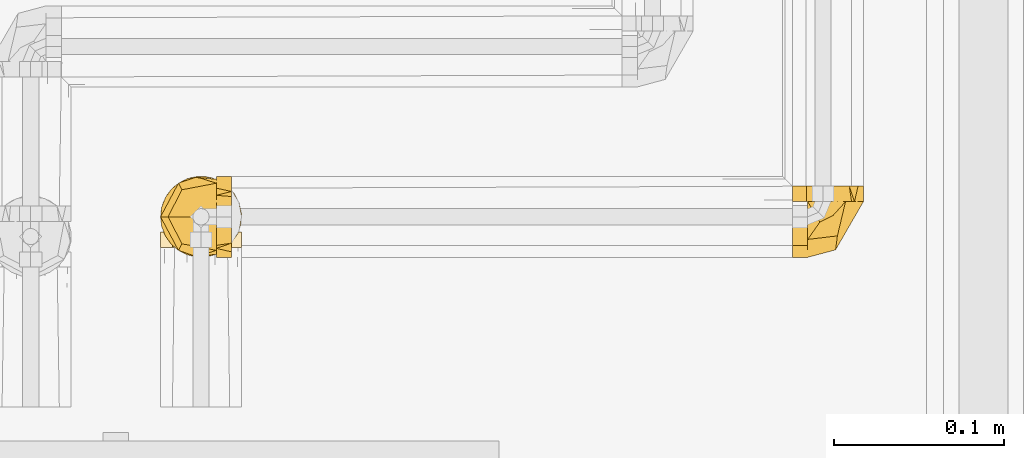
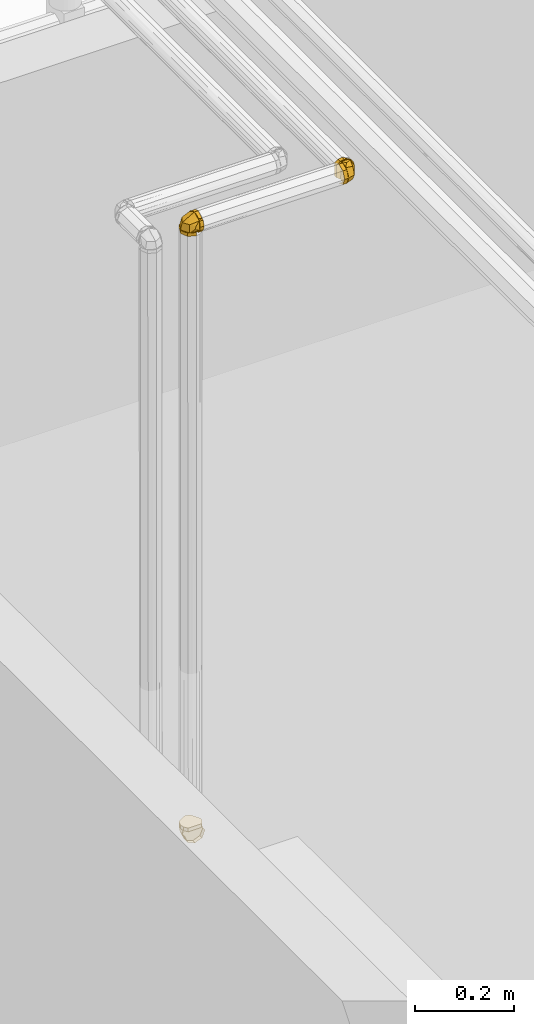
# One storey, part 285 of 652: 3 coverings.
"""IFC2X3 building model written with IfcOpenShell, lengths in millimetres."""

from ifc_helpers import new_model, entity, si_unit, converted_unit, direction, frame, origin, place, context, subcontext, project, spatial, face_set, surface_model, material, type_object, element, save


model = new_model("IFC2X3")

# Units and contexts
model_context = context("Model", 3, precision=0.01, world=frame((0.0, 0.0, 308426.39999999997)), true_north=direction((6.123233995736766e-17, 1.0)))
plan_context = context("Plan", 3, precision=0.01, world=frame((0.0, 0.0, 308426.39999999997)), true_north=direction((6.123233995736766e-17, 1.0)))
body_context = subcontext(model_context, "Body", "Model", "MODEL_VIEW")
ifc_project = project(units=[si_unit("LENGTHUNIT", "METRE", prefix="MILLI"), si_unit("AREAUNIT", "SQUARE_METRE"), si_unit("VOLUMEUNIT", "CUBIC_METRE"), converted_unit("PLANEANGLEUNIT", "DEGREE", entity("IfcPlaneAngleMeasure", 0.017453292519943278), si_unit("PLANEANGLEUNIT", "RADIAN"), dimensions=[0, 0, 0, 0, 0, 0, 0])], contexts=[model_context, plan_context])

# Site, building, storey
site_placement = place(None, origin())
site = spatial("IfcSite", under=ifc_project, at=site_placement, Name="Default", CompositionType="ELEMENT")
building_placement = place(site_placement, origin())
building = spatial("IfcBuilding", under=site, at=building_placement, CompositionType="ELEMENT")
storey_placement = place(building_placement, frame((0.0, 0.0, 1730.6999999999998)))
storey = spatial("IfcBuildingStorey", under=building, at=storey_placement, Name="EG_Produktion_FFB", CompositionType="ELEMENT", Elevation=1730.6999999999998)

# Coverings
ifc_material = material(Name="Dämmung - Armaflex-Schlauch")
covering_type = type_object("IfcCoveringType", Name="Rohrdämmung außen:Armaflex-Schlauch", PredefinedType="INSULATION")
covering_1_placement = place(storey_placement, frame((14699.64222776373, 39012.200911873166, 2674.642227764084)))
element("IfcCovering", 1, at=covering_1_placement, inside=storey, type_object=covering_type, material=ifc_material, Name="Rohrdämmung außen:Armaflex-Schlauch", ObjectType="Rohrdämmung außen:Armaflex-Schlauch", PredefinedType="INSULATION", context=body_context, shape_type="SurfaceModel", body=[
    surface_model("IfcFaceBasedSurfaceModel", [(3.3372686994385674, 10.45842089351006, 34.288272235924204), (1.8303409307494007, 10.45842089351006, 28.691896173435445), (1.7230119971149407, 10.45842089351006, 22.89717988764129), (3.0216666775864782, 10.458420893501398, 17.248839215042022), (5.649050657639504, 10.458420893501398, 12.082882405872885), (9.448866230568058, 10.458420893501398, 7.706621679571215), (14.195070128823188, 10.458420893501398, 4.38039184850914), (19.605320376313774, 10.458420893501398, 2.3020635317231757), (25.357772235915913, 10.458420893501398, 1.595272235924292), (31.110224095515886, 10.458420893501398, 2.3020635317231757), (36.52047434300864, 10.458420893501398, 4.38039184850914), (41.26667824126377, 10.458420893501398, 7.706621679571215), (45.06649381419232, 10.458420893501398, 12.082882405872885), (47.693877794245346, 10.458420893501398, 17.248839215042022), (48.99253247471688, 10.45842089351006, 22.89717988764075), (48.885203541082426, 10.45842089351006, 28.691896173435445), (47.37827577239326, 10.45842089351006, 34.288272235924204), (48.885203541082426, 16.054796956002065, 34.28827223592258), (48.99253247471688, 21.849513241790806, 34.28827223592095), (47.693877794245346, 27.497853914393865, 34.28827223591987), (45.06649381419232, 32.66381072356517, 34.28827223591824), (41.26667824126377, 37.040071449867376, 34.28827223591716), (36.52047434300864, 40.36630128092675, 34.28827223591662), (31.110224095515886, 42.44462959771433, 34.288272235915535), (25.357772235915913, 43.15142089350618, 34.288272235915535), (19.605320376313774, 42.44462959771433, 34.288272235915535), (14.195070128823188, 40.36630128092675, 34.28827223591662), (9.448866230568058, 37.040071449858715, 34.28827223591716), (5.649050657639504, 32.66381072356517, 34.28827223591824), (3.0216666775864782, 27.497853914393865, 34.28827223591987), (1.7230119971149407, 21.849513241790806, 34.28827223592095), (1.8303409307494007, 16.054796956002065, 34.28827223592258), (2.9987115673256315, 25.36511595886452, 26.166056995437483), (9.499477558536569, 27.881241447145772, 14.15167406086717), (4.480016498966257, 21.43047240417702, 34.288235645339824), (15.617708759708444, 10.459049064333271, 6.778286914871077), (25.357811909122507, 26.80688841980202, 5.97542894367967), (15.50376222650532, 37.90853636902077, 34.288235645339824), (25.357811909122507, 35.60635131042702, 21.22013795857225), (2.1394616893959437, 17.537686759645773, 22.222983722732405), (4.4928064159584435, 10.459049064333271, 23.185715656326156), (47.716912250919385, 25.36511595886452, 26.166056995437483), (48.574999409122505, 17.537686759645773, 22.222983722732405), (41.216146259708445, 27.881241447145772, 14.15167406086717), (35.09791505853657, 10.459049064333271, 6.778286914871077), (46.235607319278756, 21.43047240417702, 34.288235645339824), (35.09791505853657, 37.96899779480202, 34.288235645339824), (25.357811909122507, 34.97848265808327, 20.13183229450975), (46.22281740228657, 10.459049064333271, 23.185715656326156), (1.5953088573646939, 1.4386694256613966, 25.357676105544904), (1.5953088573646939, 10.459049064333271, 25.357676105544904), (8.555349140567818, 10.459049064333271, 8.555213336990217), (8.555349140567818, 1.4386694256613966, 8.555213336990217), (25.357811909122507, 10.459049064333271, 1.5951730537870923), (25.357811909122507, 1.4386694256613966, 1.5951730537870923), (42.160274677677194, 10.459049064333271, 8.555213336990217), (42.160274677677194, 1.4386694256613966, 8.555213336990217), (49.12031496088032, 10.459049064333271, 25.357676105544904), (49.12031496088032, 1.4386694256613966, 25.357676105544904), (46.14995973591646, 24.533653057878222, 43.30802223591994), (43.179647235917, 29.678385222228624, 43.308022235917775), (40.20933473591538, 34.823117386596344, 43.30802223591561), (37.23902223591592, 39.967849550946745, 43.30802223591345), (31.298397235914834, 41.55963522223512, 43.30802223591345), (25.357772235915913, 43.151420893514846, 43.30802223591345), (20.213040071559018, 40.18110839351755, 43.3080222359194), (15.06830790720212, 37.210795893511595, 43.308022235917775), (9.923575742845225, 34.240483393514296, 43.30802223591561), (4.778843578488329, 31.270170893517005, 43.30802223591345), (3.1870579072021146, 25.329545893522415, 43.30802223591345), (1.5952722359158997, 19.388920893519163, 43.30802223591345), (2.6431209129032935, 14.510241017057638, 43.308022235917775), (3.690969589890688, 9.63156114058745, 43.30802223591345), (6.649688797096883, 5.613416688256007, 43.30802223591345), (9.608408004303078, 1.5952722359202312, 43.30802223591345), (41.10713646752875, 1.5952722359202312, 43.30802223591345), (44.06585567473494, 5.613416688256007, 43.308022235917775), (47.024574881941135, 9.63156114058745, 43.30802223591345), (48.07242355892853, 14.510241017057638, 43.30802223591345), (49.12027223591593, 19.388920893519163, 43.30802223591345), (47.024574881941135, 9.63156114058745, 34.2882722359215), (43.985875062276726, 5.5047975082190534, 34.2882722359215), (41.10713646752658, 1.5952722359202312, 34.2882722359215), (9.608408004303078, 1.5952722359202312, 34.2882722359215), (6.649688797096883, 5.613416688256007, 34.2882722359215), (3.690969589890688, 9.63156114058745, 34.2882722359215), (2.614795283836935, 14.642122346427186, 34.2882722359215), (1.5952722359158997, 19.388920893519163, 34.2882722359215), (3.3352410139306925, 23.589577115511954, 34.2882722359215), (5.07520979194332, 27.79023333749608, 34.2882722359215), (6.815178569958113, 31.99088955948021, 34.2882722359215), (8.55514734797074, 36.191545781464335, 34.2882722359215), (12.755803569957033, 37.9315145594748, 34.2882722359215), (16.956459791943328, 39.671483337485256, 34.2882722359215), (21.15711601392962, 41.41145211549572, 34.2882722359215), (25.357772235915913, 43.151420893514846, 34.2882722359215), (29.558428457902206, 41.41145211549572, 34.2882722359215), (33.759084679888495, 39.671483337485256, 34.2882722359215), (37.95974090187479, 37.9315145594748, 34.2882722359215), (42.16039712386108, 36.191545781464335, 34.2882722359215), (43.90036590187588, 31.99088955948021, 34.2882722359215), (45.640334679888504, 27.79023333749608, 34.2882722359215), (47.380303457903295, 23.589577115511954, 34.2882722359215), (49.12027223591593, 19.388920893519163, 34.2882722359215), (48.07242355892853, 14.510241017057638, 34.2882722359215)], [face_set([[[0, 1, 2, 3, 4, 5, 6, 7, 8, 9, 10, 11, 12, 13, 14, 15]], [[16, 17, 18, 19, 20, 21, 22, 23, 24, 25, 26, 27, 28, 29, 30, 31]], [[32, 28, 33]], [[32, 34, 28]], [[33, 35, 4]], [[35, 33, 36]], [[36, 8, 35]], [[33, 37, 38]], [[39, 4, 40]], [[32, 33, 39]], [[34, 32, 0]], [[4, 39, 33]], [[38, 36, 33]], [[0, 32, 39]], [[33, 28, 37]], [[37, 24, 38]], [[0, 39, 40]], [[41, 16, 42]], [[43, 44, 36]], [[20, 45, 41]], [[46, 43, 47]], [[44, 8, 36]], [[12, 43, 42]], [[44, 43, 12]], [[42, 16, 48]], [[20, 43, 46]], [[16, 41, 45]], [[43, 41, 42]], [[43, 36, 47]], [[47, 24, 46]], [[20, 41, 43]], [[48, 12, 42]]]), face_set([[[49, 50, 51, 52]], [[53, 54, 52, 51]], [[54, 53, 55, 56]], [[57, 58, 56, 55]]]), face_set([[[59, 60, 61, 62, 63, 64, 65, 66, 67, 68, 69, 70, 71, 72, 73, 74, 75, 76, 77, 78, 79]], [[80, 81, 82, 83, 84, 85, 86, 87, 88, 89, 90, 91, 92, 93, 94, 95, 96, 97, 98, 99, 100, 101, 102, 103, 104]], [[75, 74, 83, 82]], [[71, 70, 87, 86, 85, 72]], [[73, 72, 85, 84, 83, 74]], [[90, 67, 91]], [[64, 94, 65]], [[94, 93, 65]], [[69, 89, 88]], [[88, 87, 70]], [[67, 90, 68]], [[66, 93, 92]], [[64, 95, 94]], [[93, 66, 65]], [[70, 69, 88]], [[92, 91, 67]], [[90, 89, 68]], [[69, 68, 89]], [[66, 92, 67]], [[98, 61, 99]], [[79, 102, 59]], [[102, 101, 59]], [[63, 97, 96]], [[96, 95, 64]], [[61, 98, 62]], [[60, 101, 100]], [[79, 103, 102]], [[101, 60, 59]], [[64, 63, 96]], [[100, 99, 61]], [[98, 97, 62]], [[63, 62, 97]], [[60, 100, 61]], [[76, 75, 82, 81, 80, 77]], [[78, 77, 80, 104, 103, 79]]])]),
])
covering_2_placement = place(storey_placement, frame((15070.611079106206, 39006.23206053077, 4174.642227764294)))
element("IfcCovering", 2, at=covering_2_placement, inside=storey, type_object=covering_type, material=ifc_material, Name="Rohrdämmung außen:Armaflex-Schlauch", ObjectType="Rohrdämmung außen:Armaflex-Schlauch", PredefinedType="INSULATION", context=body_context, shape_type="SurfaceModel", body=[
    surface_model("IfcFaceBasedSurfaceModel", [(10.458420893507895, 34.28827223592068, 3.337268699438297), (10.45842089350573, 28.691896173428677, 1.83034093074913), (10.45842089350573, 22.897179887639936, 1.723011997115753), (10.458420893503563, 17.248839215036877, 3.0216666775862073), (10.458420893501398, 12.082882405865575, 5.649050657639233), (10.458420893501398, 7.706621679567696, 9.44886623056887), (10.458420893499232, 4.380391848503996, 14.195070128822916), (10.458420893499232, 2.3020635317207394, 19.605320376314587), (10.458420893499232, 1.5952722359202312, 25.35777223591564), (10.458420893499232, 2.3020635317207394, 31.110224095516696), (10.458420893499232, 4.380391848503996, 36.52047434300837), (10.458420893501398, 7.706621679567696, 41.26667824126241), (10.458420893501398, 12.082882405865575, 45.06649381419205), (10.458420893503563, 17.248839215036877, 47.693877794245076), (10.45842089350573, 22.897179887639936, 48.99253247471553), (10.45842089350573, 28.691896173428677, 48.885203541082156), (10.458420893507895, 34.28827223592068, 47.37827577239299), (16.054796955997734, 34.28827223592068, 1.83034093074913), (21.849513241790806, 34.28827223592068, 1.723011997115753), (27.497853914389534, 34.28827223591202, 3.0216666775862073), (32.66381072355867, 34.28827223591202, 5.649050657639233), (37.04007144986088, 34.28827223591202, 9.44886623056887), (40.366301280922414, 34.28827223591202, 14.195070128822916), (42.444629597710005, 34.28827223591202, 19.605320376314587), (43.151420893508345, 34.28827223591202, 25.35777223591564), (42.444629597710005, 34.28827223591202, 31.110224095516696), (40.366301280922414, 34.28827223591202, 36.52047434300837), (37.04007144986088, 34.28827223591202, 41.26667824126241), (32.66381072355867, 34.28827223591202, 45.06649381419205), (27.497853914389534, 34.28827223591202, 47.693877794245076), (21.849513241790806, 34.28827223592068, 48.99253247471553), (16.054796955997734, 34.28827223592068, 48.885203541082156), (25.365153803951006, 26.16684083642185, 2.9988778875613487), (27.880116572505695, 14.153620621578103, 9.499062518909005), (21.431672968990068, 34.28727540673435, 4.479601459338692), (10.457924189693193, 6.777326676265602, 15.617875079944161), (26.804600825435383, 5.975050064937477, 25.357978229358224), (37.907411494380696, 34.28727540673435, 15.503347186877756), (35.606389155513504, 21.218305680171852, 25.357978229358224), (17.53888732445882, 22.222895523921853, 2.1402093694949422), (10.457924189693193, 23.185627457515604, 4.492972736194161), (25.365153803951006, 26.16684083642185, 47.7170785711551), (17.53888732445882, 22.222895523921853, 48.57574708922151), (27.880116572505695, 14.153620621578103, 41.216312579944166), (10.457924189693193, 6.777326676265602, 35.097500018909), (21.431672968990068, 34.28727540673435, 46.23577363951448), (37.96903563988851, 34.28727540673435, 35.097500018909), (34.978520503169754, 20.130000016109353, 25.357978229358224), (10.457924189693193, 23.185627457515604, 46.222402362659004), (1.4387072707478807, 25.357587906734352, 1.595475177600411), (10.457924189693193, 25.357587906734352, 1.595475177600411), (10.457924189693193, 8.553962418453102, 8.554934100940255), (1.4387072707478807, 8.553962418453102, 8.554934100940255), (10.457924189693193, 1.5962475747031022, 25.357978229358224), (1.4387072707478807, 1.5962475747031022, 25.357978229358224), (10.457924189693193, 8.553962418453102, 42.160440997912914), (1.4387072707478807, 8.553962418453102, 42.160440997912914), (10.457924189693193, 25.357587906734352, 49.120481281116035), (1.4387072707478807, 25.357587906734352, 49.120481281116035), (24.533653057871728, 43.30802223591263, 46.14995973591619), (29.678385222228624, 43.30802223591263, 43.17964723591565), (34.823117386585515, 43.30802223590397, 40.209334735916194), (39.96784955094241, 43.30802223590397, 37.23902223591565), (41.55963522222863, 43.30802223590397, 31.298397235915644), (43.151420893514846, 43.30802223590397, 25.35777223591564), (40.18110839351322, 43.30802223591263, 20.213040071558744), (37.210795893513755, 43.30802223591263, 15.06830790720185), (34.24048339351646, 43.30802223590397, 9.923575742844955), (31.270170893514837, 43.30802223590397, 4.7788435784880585), (25.329545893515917, 43.30802223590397, 3.1870579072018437), (19.388920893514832, 43.30802223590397, 1.595272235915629), (14.510241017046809, 43.30802223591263, 2.64312091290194), (9.631561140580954, 43.30802223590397, 3.690969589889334), (5.61341668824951, 43.30802223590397, 6.649688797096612), (1.5952722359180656, 43.30802223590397, 9.608408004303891), (1.5952722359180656, 43.30802223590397, 41.10713646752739), (5.61341668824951, 43.30802223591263, 44.06585567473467), (9.631561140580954, 43.30802223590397, 47.02457488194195), (14.510241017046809, 43.30802223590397, 48.072423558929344), (19.388920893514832, 43.30802223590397, 49.12027223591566), (9.631561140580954, 34.28827223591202, 47.024574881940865), (5.504797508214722, 34.28827223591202, 43.985875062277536), (1.5952722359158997, 34.28827223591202, 41.10713646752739), (1.5952722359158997, 34.28827223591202, 9.608408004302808), (5.61341668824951, 34.28827223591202, 6.649688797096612), (9.631561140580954, 34.28827223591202, 3.690969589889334), (14.64212234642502, 34.28827223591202, 2.614795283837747), (19.388920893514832, 34.28827223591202, 1.595272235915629), (23.589577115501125, 34.28827223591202, 3.335241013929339), (27.790233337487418, 34.28827223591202, 5.075209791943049), (31.99088955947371, 34.28827223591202, 6.8151785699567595), (36.19154578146, 34.28827223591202, 8.55514734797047), (37.93151455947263, 34.28827223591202, 12.755803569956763), (39.67148333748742, 34.28827223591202, 16.956459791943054), (41.41145211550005, 34.28827223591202, 21.157116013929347), (43.151420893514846, 34.28827223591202, 25.35777223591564), (41.41145211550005, 34.28827223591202, 29.558428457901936), (39.67148333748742, 34.28827223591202, 33.759084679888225), (37.9315145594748, 34.28827223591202, 37.95974090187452), (36.19154578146, 34.28827223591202, 42.16039712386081), (31.99088955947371, 34.28827223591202, 43.90036590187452), (27.790233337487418, 34.28827223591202, 45.640334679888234), (23.589577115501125, 34.28827223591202, 47.380303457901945), (19.388920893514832, 34.28827223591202, 49.12027223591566), (14.510241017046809, 34.28827223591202, 48.072423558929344)], [face_set([[[0, 1, 2, 3, 4, 5, 6, 7, 8, 9, 10, 11, 12, 13, 14, 15]], [[16, 17, 18, 19, 20, 21, 22, 23, 24, 25, 26, 27, 28, 29, 30, 31]], [[32, 20, 33]], [[32, 34, 20]], [[33, 35, 4]], [[35, 33, 36]], [[36, 8, 35]], [[33, 37, 38]], [[39, 4, 40]], [[32, 33, 39]], [[34, 32, 0]], [[4, 39, 33]], [[38, 36, 33]], [[0, 32, 39]], [[33, 20, 37]], [[37, 24, 38]], [[0, 39, 40]], [[41, 16, 42]], [[43, 44, 36]], [[28, 45, 41]], [[46, 43, 47]], [[44, 8, 36]], [[12, 43, 42]], [[44, 43, 12]], [[42, 16, 48, 12]], [[28, 43, 46]], [[16, 41, 45]], [[43, 41, 42]], [[43, 36, 47]], [[47, 24, 46]], [[28, 41, 43]]]), face_set([[[49, 50, 51, 52]], [[53, 54, 52, 51]], [[54, 53, 55, 56]], [[57, 58, 56, 55]]]), face_set([[[59, 60, 61, 62, 63, 64, 65, 66, 67, 68, 69, 70, 71, 72, 73, 74, 75, 76, 77, 78, 79]], [[80, 81, 82, 83, 84, 85, 86, 87, 88, 89, 90, 91, 92, 93, 94, 95, 96, 97, 98, 99, 100, 101, 102, 103, 104]], [[75, 74, 83, 82]], [[71, 70, 87, 86, 85, 72]], [[73, 72, 85, 84, 83, 74]], [[90, 67, 91]], [[64, 94, 65]], [[94, 93, 65]], [[69, 89, 88]], [[88, 87, 70]], [[67, 90, 68]], [[66, 93, 92]], [[64, 95, 94]], [[93, 66, 65]], [[70, 69, 88]], [[92, 91, 67]], [[90, 89, 68]], [[69, 68, 89]], [[66, 92, 67]], [[98, 61, 99]], [[79, 102, 59]], [[102, 101, 59]], [[63, 97, 96]], [[96, 95, 64]], [[61, 98, 62]], [[60, 101, 100]], [[79, 103, 102]], [[101, 60, 59]], [[64, 63, 96]], [[100, 99, 61]], [[98, 97, 62]], [[63, 62, 97]], [[60, 100, 61]], [[76, 75, 82, 81, 80, 77]], [[78, 77, 80, 104, 103, 79]]])]),
])
covering_3_placement = place(storey_placement, frame((14699.642227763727, 39006.23206053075, 4180.61107910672)))
element("IfcCovering", 3, at=covering_3_placement, inside=storey, type_object=covering_type, material=ifc_material, Name="Rohrdämmung außen:Armaflex-Schlauch", ObjectType="Rohrdämmung außen:Armaflex-Schlauch", PredefinedType="INSULATION", context=body_context, shape_type="SurfaceModel", body=[
    surface_model("IfcFaceBasedSurfaceModel", [(34.28827223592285, 3.337268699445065, 10.458420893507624), (28.69189617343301, 1.8303409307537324, 10.458420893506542), (22.897179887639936, 1.723011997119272, 10.458420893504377), (17.24883921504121, 3.021666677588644, 10.458420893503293), (12.082882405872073, 5.649050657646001, 10.45842089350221), (7.706621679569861, 9.44886623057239, 10.458420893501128), (4.380391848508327, 14.195070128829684, 10.458420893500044), (2.3020635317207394, 19.605320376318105, 10.458420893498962), (1.595272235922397, 25.357772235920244, 10.458420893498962), (2.3020635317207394, 31.110224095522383, 10.458420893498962), (4.380391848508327, 36.520474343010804, 10.458420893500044), (7.706621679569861, 41.266678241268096, 10.458420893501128), (12.082882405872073, 45.066493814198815, 10.45842089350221), (17.24883921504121, 47.69387779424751, 10.458420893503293), (22.897179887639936, 48.99253247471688, 10.458420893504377), (28.69189617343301, 48.88520354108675, 10.458420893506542), (34.28827223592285, 47.37827577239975, 10.458420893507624), (34.28827223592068, 1.8303409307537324, 16.05479695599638), (34.28827223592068, 1.723011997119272, 21.849513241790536), (34.28827223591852, 3.021666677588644, 27.49785391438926), (34.28827223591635, 5.649050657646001, 32.6638107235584), (34.28827223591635, 9.44886623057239, 37.04007144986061), (34.288272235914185, 14.195070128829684, 40.366301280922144), (34.288272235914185, 19.605320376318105, 42.44462959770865), (34.288272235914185, 25.357772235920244, 43.151420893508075), (34.288272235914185, 31.110224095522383, 42.44462959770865), (34.288272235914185, 36.520474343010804, 40.366301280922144), (34.28827223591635, 41.266678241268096, 37.04007144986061), (34.28827223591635, 45.066493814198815, 32.66381072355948), (34.28827223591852, 47.69387779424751, 27.497853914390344), (34.28827223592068, 48.99253247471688, 21.849513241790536), (34.28827223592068, 48.88520354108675, 16.05479695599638), (26.16590211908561, 2.9984875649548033, 25.36550628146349), (14.151519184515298, 9.498090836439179, 27.879306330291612), (34.288662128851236, 4.4797924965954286, 21.43202544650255), (6.778713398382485, 15.61864747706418, 10.458276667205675), (5.975274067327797, 25.35758790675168, 26.80495330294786), (34.288662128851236, 15.50237550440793, 37.907763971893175), (21.219692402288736, 25.35758790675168, 35.60674163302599), (22.22311952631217, 2.140400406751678, 17.53865844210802), (23.185851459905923, 4.493745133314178, 10.458276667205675), (26.16590211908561, 47.71901368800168, 25.36550628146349), (22.22311952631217, 48.57477540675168, 17.53865844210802), (14.151519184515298, 41.21708497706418, 27.879306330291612), (6.778713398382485, 35.09652833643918, 10.458276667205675), (34.288662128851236, 46.23538331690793, 21.43202544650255), (34.288662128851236, 35.09652833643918, 37.968806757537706), (20.131386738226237, 25.35758790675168, 34.97829162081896), (23.185851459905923, 46.22143068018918, 10.458276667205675), (25.357811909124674, 1.596247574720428, 1.4384783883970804), (25.357811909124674, 1.596247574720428, 10.458276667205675), (8.555349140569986, 8.553962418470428, 10.458276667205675), (8.555349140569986, 8.553962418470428, 1.4384783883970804), (1.5953088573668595, 25.35758790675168, 10.458276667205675), (1.5953088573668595, 25.35758790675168, 1.4384783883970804), (8.555349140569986, 42.16121339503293, 10.458276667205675), (8.555349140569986, 42.16121339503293, 1.4384783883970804), (25.357811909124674, 49.11892823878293, 10.458276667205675), (25.357811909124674, 49.11892823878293, 1.4384783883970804), (43.30802223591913, 46.14995973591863, 24.533653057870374), (43.308022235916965, 43.179647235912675, 29.67838522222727), (43.3080222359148, 40.20933473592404, 34.823117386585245), (43.30802223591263, 37.239022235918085, 39.96784955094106), (43.30802223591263, 31.298397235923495, 41.55963522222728), (43.30802223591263, 25.357772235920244, 43.15142089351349), (43.30802223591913, 20.21304007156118, 40.18110839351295), (43.308022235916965, 15.068307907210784, 37.210795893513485), (43.3080222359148, 9.923575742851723, 34.240483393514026), (43.30802223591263, 4.778843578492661, 31.270170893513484), (43.30802223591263, 3.1870579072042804, 25.32954589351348), (43.30802223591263, 1.5952722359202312, 19.38892089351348), (43.308022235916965, 2.643120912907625, 14.510241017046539), (43.30802223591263, 3.690969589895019, 9.631561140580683), (43.30802223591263, 6.649688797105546, 5.613416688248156), (43.30802223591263, 9.608408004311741, 1.595272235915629), (43.30802223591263, 41.10713646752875, 1.595272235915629), (43.308022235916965, 44.06585567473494, 5.613416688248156), (43.30802223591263, 47.024574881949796, 9.631561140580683), (43.30802223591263, 48.07242355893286, 14.510241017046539), (43.30802223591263, 49.12027223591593, 19.38892089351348), (34.28827223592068, 42.160397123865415, 36.19154578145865), (34.28827223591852, 43.90036590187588, 31.990889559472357), (34.28827223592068, 45.64033467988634, 27.790233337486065), (34.28827223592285, 47.38030345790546, 23.58957711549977), (34.28827223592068, 49.12027223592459, 19.38892089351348), (34.28827223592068, 48.07242355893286, 14.510241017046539), (34.28827223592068, 47.024574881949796, 9.6315611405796), (34.28827223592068, 43.985875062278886, 5.504797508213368), (34.28827223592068, 41.10713646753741, 1.595272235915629), (34.28827223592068, 9.608408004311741, 1.595272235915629), (34.28827223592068, 6.649688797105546, 5.613416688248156), (34.28827223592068, 3.690969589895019, 9.6315611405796), (34.28827223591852, 2.6147952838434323, 14.642122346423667), (34.28827223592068, 1.5952722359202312, 19.38892089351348), (34.28827223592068, 3.335241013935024, 23.58957711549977), (34.28827223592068, 5.075209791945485, 27.790233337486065), (34.28827223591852, 6.8151785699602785, 31.990889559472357), (34.28827223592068, 8.55514734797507, 36.19154578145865), (34.28827223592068, 12.755803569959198, 37.93151455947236), (34.28827223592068, 16.956459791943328, 39.67148333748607), (34.28827223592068, 21.157116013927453, 41.41145211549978), (34.28827223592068, 25.357772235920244, 43.15142089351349), (34.28827223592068, 29.55842845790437, 41.41145211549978), (34.28827223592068, 33.759084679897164, 39.67148333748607), (34.28827223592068, 37.95974090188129, 37.93151455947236)], [face_set([[[0, 1, 2, 3, 4, 5, 6, 7, 8, 9, 10, 11, 12, 13, 14, 15]], [[16, 17, 18, 19, 20, 21, 22, 23, 24, 25, 26, 27, 28, 29, 30, 31]], [[32, 20, 33]], [[32, 34, 20]], [[33, 35, 4]], [[35, 33, 36]], [[36, 8, 35]], [[33, 37, 38]], [[39, 4, 40, 0]], [[32, 33, 39]], [[34, 32, 0]], [[4, 39, 33]], [[38, 36, 33]], [[0, 32, 39]], [[33, 20, 37]], [[37, 24, 38]], [[41, 16, 42]], [[43, 44, 36]], [[28, 45, 41]], [[46, 43, 47]], [[44, 8, 36]], [[12, 43, 42]], [[44, 43, 12]], [[42, 16, 48]], [[28, 43, 46]], [[16, 41, 45]], [[43, 41, 42]], [[43, 36, 47]], [[47, 24, 46]], [[28, 41, 43]], [[48, 12, 42]]]), face_set([[[49, 50, 51, 52]], [[53, 54, 52, 51]], [[54, 53, 55, 56]], [[57, 58, 56, 55]]]), face_set([[[59, 60, 61, 62, 63, 64, 65, 66, 67, 68, 69, 70, 71, 72, 73, 74, 75, 76, 77, 78, 79]], [[80, 81, 82, 83, 84, 85, 86, 87, 88, 89, 90, 91, 92, 93, 94, 95, 96, 97, 98, 99, 100, 101, 102, 103, 104]], [[75, 74, 89, 88]], [[71, 70, 93, 92, 91, 72]], [[73, 72, 91, 90, 89, 74]], [[96, 67, 97]], [[64, 100, 65]], [[100, 99, 65]], [[69, 95, 94]], [[94, 93, 70]], [[67, 96, 68]], [[66, 99, 98]], [[64, 101, 100]], [[99, 66, 65]], [[70, 69, 94]], [[98, 97, 67]], [[96, 95, 68]], [[69, 68, 95]], [[66, 98, 67]], [[104, 61, 80]], [[79, 83, 59]], [[83, 82, 59]], [[63, 103, 102]], [[102, 101, 64]], [[61, 104, 62]], [[60, 82, 81]], [[79, 84, 83]], [[82, 60, 59]], [[64, 63, 102]], [[81, 80, 61]], [[104, 103, 62]], [[63, 62, 103]], [[60, 81, 61]], [[76, 75, 88, 87, 86, 77]], [[78, 77, 86, 85, 84, 79]]])]),
])

save(model, "model.ifc")
